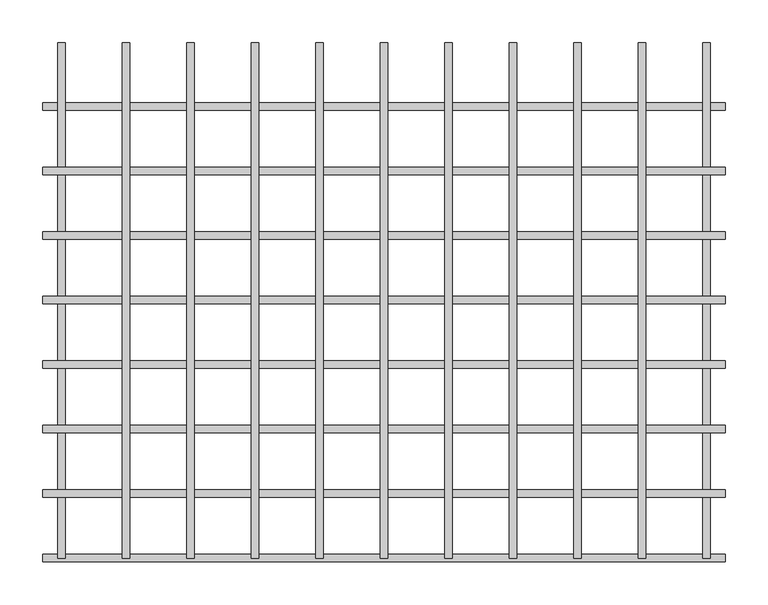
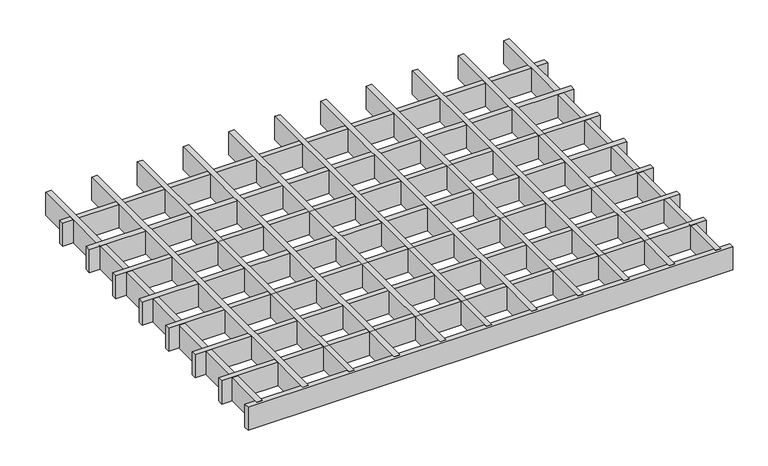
"""IFC4 building model written with IfcOpenShell, lengths in millimetres: proxy geometry, durlum_GEO_panel : durlum_GEO_9_length_cut."""

from ifc_helpers import new_model, si_unit, origin, origin_with_axes, place, context, project, spatial, polyline, outline, extrude, source, transform, mapped, element, save


def generic_models_706eee53(model_context):
    return source(origin(), model_context, "Body", "SweptSolid", [
        extrude(outline(polyline([(295.5, 299.5), (304.5, 299.5), (304.5, -299.5), (295.5, -299.5), (295.5, 299.5)])), origin_with_axes(), (0.0, 0.0, 1.0), 40.0),
        extrude(outline(polyline([(220.5, 299.5), (229.5, 299.5), (229.5, -299.5), (220.5, -299.5), (220.5, 299.5)])), origin_with_axes(), (0.0, 0.0, 1.0), 40.0),
        extrude(outline(polyline([(145.5, 299.5), (154.5, 299.5), (154.5, -299.5), (145.5, -299.5), (145.5, 299.5)])), origin_with_axes(), (0.0, 0.0, 1.0), 40.0),
        extrude(outline(polyline([(70.5, 299.5), (79.5, 299.5), (79.5, -299.5), (70.5, -299.5), (70.5, 299.5)])), origin_with_axes(), (0.0, 0.0, 1.0), 40.0),
        extrude(outline(polyline([(-4.5, 299.5), (4.5, 299.5), (4.5, -299.5), (-4.5, -299.5), (-4.5, 299.5)])), origin_with_axes(), (0.0, 0.0, 1.0), 40.0),
        extrude(outline(polyline([(-79.5, 299.5), (-70.5, 299.5), (-70.5, -299.5), (-79.5, -299.5), (-79.5, 299.5)])), origin_with_axes(), (0.0, 0.0, 1.0), 40.0),
        extrude(outline(polyline([(-154.5, 299.5), (-145.5, 299.5), (-145.5, -299.5), (-154.5, -299.5), (-154.5, 299.5)])), origin_with_axes(), (0.0, 0.0, 1.0), 40.0),
        extrude(outline(polyline([(-229.5, 299.5), (-220.5, 299.5), (-220.5, -299.5), (-229.5, -299.5), (-229.5, 299.5)])), origin_with_axes(), (0.0, 0.0, 1.0), 40.0),
        extrude(outline(polyline([(-304.5, 299.5), (-295.5, 299.5), (-295.5, -299.5), (-304.5, -299.5), (-304.5, 299.5)])), origin_with_axes(), (0.0, 0.0, 1.0), 40.0),
        extrude(outline(polyline([(396.5628516, -220.0), (396.5628516, -229.0), (-396.5628516, -229.0), (-396.5628516, -220.0), (396.5628516, -220.0)])), origin_with_axes(), (0.0, 0.0, 1.0), 40.0),
        extrude(outline(polyline([(396.5628516, -145.0), (396.5628516, -154.0), (-396.5628516, -154.0), (-396.5628516, -145.0), (396.5628516, -145.0)])), origin_with_axes(), (0.0, 0.0, 1.0), 40.0),
        extrude(outline(polyline([(396.5628516, -70.0), (396.5628516, -79.0), (-396.5628516, -79.0), (-396.5628516, -70.0), (396.5628516, -70.0)])), origin_with_axes(), (0.0, 0.0, 1.0), 40.0),
        extrude(outline(polyline([(396.5628516, 5.0), (396.5628516, -4.0), (-396.5628516, -4.0), (-396.5628516, 5.0), (396.5628516, 5.0)])), origin_with_axes(), (0.0, 0.0, 1.0), 40.0),
        extrude(outline(polyline([(396.5628516, 80.0), (396.5628516, 71.0), (-396.5628516, 71.0), (-396.5628516, 80.0), (396.5628516, 80.0)])), origin_with_axes(), (0.0, 0.0, 1.0), 40.0),
        extrude(outline(polyline([(396.5628516, 155.0), (396.5628516, 146.0), (-396.5628516, 146.0), (-396.5628516, 155.0), (396.5628516, 155.0)])), origin_with_axes(), (0.0, 0.0, 1.0), 40.0),
        extrude(outline(polyline([(370.5, 299.5), (379.5, 299.5), (379.5, -299.5), (370.5, -299.5), (370.5, 299.5)])), origin_with_axes(), (0.0, 0.0, 1.0), 40.0),
        extrude(outline(polyline([(-379.5, 299.5), (-370.5, 299.5), (-370.5, -299.5), (-379.5, -299.5), (-379.5, 299.5)])), origin_with_axes(), (0.0, 0.0, 1.0), 40.0),
        extrude(outline(polyline([(396.5628516, -295.0), (396.5628516, -304.0), (-396.5628516, -304.0), (-396.5628516, -295.0), (396.5628516, -295.0)])), origin_with_axes(), (0.0, 0.0, 1.0), 40.0),
        extrude(outline(polyline([(396.5628516, 230.0), (396.5628516, 221.0), (-396.5628516, 221.0), (-396.5628516, 230.0), (396.5628516, 230.0)])), origin_with_axes(), (0.0, 0.0, 1.0), 40.0),
    ])


if __name__ == "__main__":
    model = new_model("IFC4")
    model_context = context("Model", 3, world=origin())
    ifc_project = project(units=[si_unit("LENGTHUNIT", "METRE", prefix="MILLI")], contexts=[model_context])
    site = spatial("IfcSite", under=ifc_project)
    building = spatial("IfcBuilding", under=site)
    placement = place(None, origin())
    generic_models_shape = generic_models_706eee53(model_context)
    element("IfcBuildingElementProxy", 1, Name="durlum_GEO_panel : durlum_GEO_9_length_cut", ObjectType="durlum_GEO_panel : durlum_GEO_9_length_cut", at=placement, inside=building, context=model_context, shape_type="MappedRepresentation", body=[
        mapped(generic_models_shape, transform((0.0, 0.0, 0.0), x_axis=(1.0, 0.0, 0.0), y_axis=(0.0, 1.0, 0.0), z_axis=(0.0, 0.0, 1.0))),
    ])
    save(model, "model.ifc")
